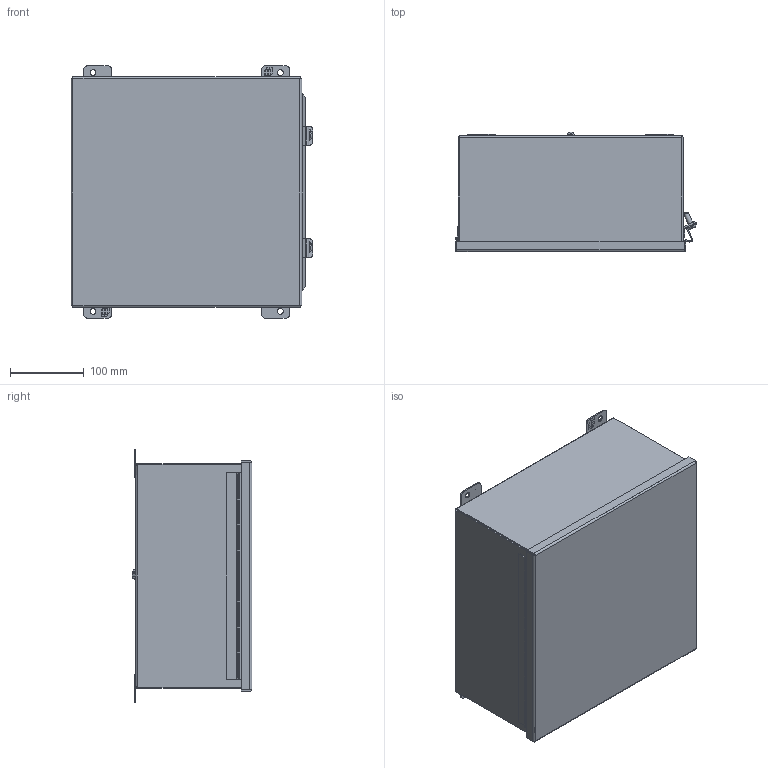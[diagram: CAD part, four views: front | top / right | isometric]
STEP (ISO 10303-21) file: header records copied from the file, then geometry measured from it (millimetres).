
FILE_DESCRIPTION(/* description */ ('Unknown'),/* implementation_level */ '2;1');
FILE_NAME(/* name */ '1414N4PHSSL6',/* time_stamp */ '2018-11-22T12:49:43-05:00',/* author */ ('Unknown'),/* organization */ ('Unknown'),/* preprocessor_version */ 'ST-DEVELOPER v16.7',/* originating_system */ 'DEX',/* authorisation */ $);
FILE_SCHEMA (('AUTOMOTIVE_DESIGN {1 0 10303 214 3 1 1}'));
Length unit declared in the file: millimetre
Products named in the file (22): 1414N4PHSSL6; COM42870; COM50851; STD26154; COM52631; COM42964; QLB20278; KIT90770; LAB30005; NTS16500; NTS17050; scs18968; STD26202; BUL10020; COM70220_oa_0; scs19420; COM40176; COM42956; HNG14586-11C; HNG14586-11B; HNG14586-11P
Assembly tree (31 placements, depth 3):
  1414N4PHSSL6
    COM42870
    COM50851  x4
    STD26154  x4
    COM52631  x2
    COM42964
    QLB20278
    KIT90770
      LAB30005
      NTS16500
      NTS17050
      scs18968
    STD26202
    BUL10020
    COM70220_oa_0
    scs19420  x2
    COM40176  x2
    COM42956
      STD26202
      COM42956
      HNG14586-11C
    HNG14586-11B
    HNG14586-11P
Bounding box: 327.96 x 162.29 x 342.9 mm (x, y, z)
Volume: 968812 mm3; surface area: 1077253.2 mm2
Topology: 27 solids, 28 shells, 871 faces, 2230 edges, 1436 vertices
Faces by surface type: plane 576, cylinder 200, bspline 49, cone 34, torus 12
Full cylindrical faces by diameter (mm): 1.143 x1, 3.967 x6, 4.699 x1, 4.826 x2, 5.41 x2, 6.35 x4, 6.731 x4, 7.938 x4, 9.525 x4, 9.779 x1, 12.192 x2
Entity records: 21237 total; most frequent: CARTESIAN_POINT 5638, ORIENTED_EDGE 3174, DIRECTION 2998, EDGE_CURVE 1587, LINE 1052, VECTOR 1052, VERTEX_POINT 1030, AXIS2_PLACEMENT_3D 973
